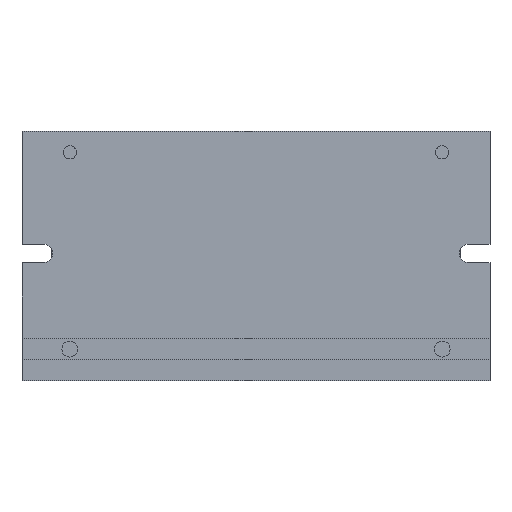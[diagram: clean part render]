
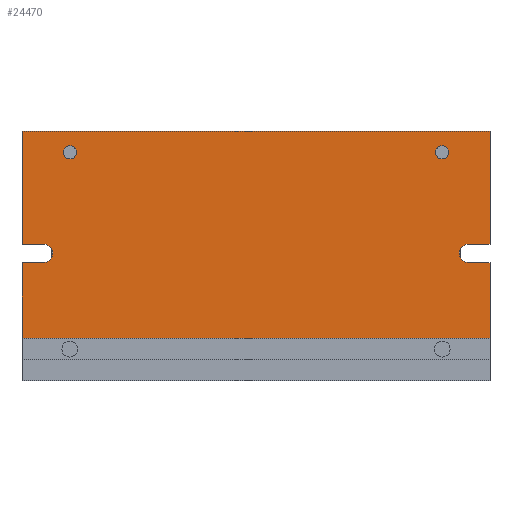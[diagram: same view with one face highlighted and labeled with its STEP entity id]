
A CAD part, front view. The second image highlights one B-rep face of the part: STEP entity #24470.
In plain terms, the highlighted planar face has unit normal (0, -1, 0).
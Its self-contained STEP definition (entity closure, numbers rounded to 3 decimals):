
#1 = EDGE_CURVE ( 'NONE', #2738, #27840, #22811, .T. ) ;
#100 = ORIENTED_EDGE ( 'NONE', *, *, #20374, .T. ) ;
#348 = DIRECTION ( 'NONE',  ( 0., 1., 0. ) ) ;
#787 = DIRECTION ( 'NONE',  ( -1., 0., 0. ) ) ;
#1360 = ORIENTED_EDGE ( 'NONE', *, *, #4652, .T. ) ;
#1421 = CARTESIAN_POINT ( 'NONE',  ( -44., 0., -25.75 ) ) ;
#1454 = EDGE_CURVE ( 'NONE', #12132, #8810, #28858, .T. ) ;
#1791 = LINE ( 'NONE', #15884, #26121 ) ;
#2301 = DIRECTION ( 'NONE',  ( -1., 0., 0. ) ) ;
#2428 = EDGE_CURVE ( 'NONE', #28799, #9588, #11912, .T. ) ;
#2738 = VERTEX_POINT ( 'NONE', #4906 ) ;
#2786 = EDGE_CURVE ( 'NONE', #26150, #6599, #4125, .T. ) ;
#2806 = CARTESIAN_POINT ( 'NONE',  ( -44., 0., -25.75 ) ) ;
#3732 = CARTESIAN_POINT ( 'NONE',  ( 44., 0., -8. ) ) ;
#3760 = VERTEX_POINT ( 'NONE', #16491 ) ;
#3770 = VECTOR ( 'NONE', #6087, 1000. ) ;
#4125 = CIRCLE ( 'NONE', #23619, 1.25 ) ;
#4129 = DIRECTION ( 'NONE',  ( 1., 0., 0. ) ) ;
#4597 = CARTESIAN_POINT ( 'NONE',  ( -35., 0., -44.25 ) ) ;
#4652 = EDGE_CURVE ( 'NONE', #13465, #26001, #11545, .T. ) ;
#4874 = VERTEX_POINT ( 'NONE', #26223 ) ;
#4906 = CARTESIAN_POINT ( 'NONE',  ( 44., 0., -25.75 ) ) ;
#4967 = CARTESIAN_POINT ( 'NONE',  ( -35., 0., -41.75 ) ) ;
#5314 = CARTESIAN_POINT ( 'NONE',  ( 40., 0., -25.75 ) ) ;
#5689 = LINE ( 'NONE', #1421, #11258 ) ;
#5694 = EDGE_CURVE ( 'NONE', #27840, #27581, #25424, .T. ) ;
#5844 = DIRECTION ( 'NONE',  ( 0., 0., -1. ) ) ;
#5881 = DIRECTION ( 'NONE',  ( 1., 0., 0. ) ) ;
#6087 = DIRECTION ( 'NONE',  ( 0., 0., -1. ) ) ;
#6458 = CARTESIAN_POINT ( 'NONE',  ( 44., 0., -8. ) ) ;
#6599 = VERTEX_POINT ( 'NONE', #4597 ) ;
#6605 = VECTOR ( 'NONE', #25812, 1000. ) ;
#7734 = EDGE_LOOP ( 'NONE', ( #18925, #29867 ) ) ;
#8086 = ORIENTED_EDGE ( 'NONE', *, *, #1, .F. ) ;
#8204 = AXIS2_PLACEMENT_3D ( 'NONE', #11026, #27511, #13392 ) ;
#8238 = ORIENTED_EDGE ( 'NONE', *, *, #8459, .T. ) ;
#8401 = AXIS2_PLACEMENT_3D ( 'NONE', #26929, #12780, #29268 ) ;
#8459 = EDGE_CURVE ( 'NONE', #9588, #28799, #14771, .T. ) ;
#8810 = VERTEX_POINT ( 'NONE', #14611 ) ;
#9011 = CARTESIAN_POINT ( 'NONE',  ( -40., 0., -24. ) ) ;
#9305 = ORIENTED_EDGE ( 'NONE', *, *, #22963, .T. ) ;
#9588 = VERTEX_POINT ( 'NONE', #14850 ) ;
#9596 = VECTOR ( 'NONE', #30341, 1000. ) ;
#9889 = FACE_BOUND ( 'NONE', #7734, .T. ) ;
#10041 = LINE ( 'NONE', #10612, #27397 ) ;
#10555 = DIRECTION ( 'NONE',  ( 0., 0., 1. ) ) ;
#10612 = CARTESIAN_POINT ( 'NONE',  ( -44., 0., -22.25 ) ) ;
#10636 = FACE_OUTER_BOUND ( 'NONE', #14624, .T. ) ;
#10878 = AXIS2_PLACEMENT_3D ( 'NONE', #9011, #25518, #11404 ) ;
#11026 = CARTESIAN_POINT ( 'NONE',  ( 35., 0., -43. ) ) ;
#11221 = AXIS2_PLACEMENT_3D ( 'NONE', #29226, #24665, #10555 ) ;
#11258 = VECTOR ( 'NONE', #29666, 1000. ) ;
#11319 = LINE ( 'NONE', #28840, #29363 ) ;
#11404 = DIRECTION ( 'NONE',  ( 0., 0., 1. ) ) ;
#11479 = EDGE_CURVE ( 'NONE', #12132, #4874, #11319, .T. ) ;
#11533 = CARTESIAN_POINT ( 'NONE',  ( -35., 0., -43. ) ) ;
#11545 = CIRCLE ( 'NONE', #10878, 1.75 ) ;
#11912 = CIRCLE ( 'NONE', #8401, 1.25 ) ;
#12132 = VERTEX_POINT ( 'NONE', #25290 ) ;
#12148 = DIRECTION ( 'NONE',  ( 0., 1., 0. ) ) ;
#12780 = DIRECTION ( 'NONE',  ( 0., 1., 0. ) ) ;
#13075 = CIRCLE ( 'NONE', #29503, 1.25 ) ;
#13107 = ORIENTED_EDGE ( 'NONE', *, *, #11479, .T. ) ;
#13392 = DIRECTION ( 'NONE',  ( 0., 0., 1. ) ) ;
#13465 = VERTEX_POINT ( 'NONE', #15978 ) ;
#13824 = VERTEX_POINT ( 'NONE', #5314 ) ;
#13878 = ORIENTED_EDGE ( 'NONE', *, *, #23284, .T. ) ;
#13893 = DIRECTION ( 'NONE',  ( 0., 0., 1. ) ) ;
#14213 = CARTESIAN_POINT ( 'NONE',  ( 35., 0., -41.75 ) ) ;
#14513 = CARTESIAN_POINT ( 'NONE',  ( 40., 0., -24. ) ) ;
#14611 = CARTESIAN_POINT ( 'NONE',  ( 44., 0., -22.25 ) ) ;
#14624 = EDGE_LOOP ( 'NONE', ( #25407, #23015, #16889, #13107, #23197, #13878, #1360, #29640, #100, #21509, #8086, #9305 ) ) ;
#14771 = CIRCLE ( 'NONE', #8204, 1.25 ) ;
#14850 = CARTESIAN_POINT ( 'NONE',  ( 35., 0., -44.25 ) ) ;
#15105 = PLANE ( 'NONE',  #11221 ) ;
#15884 = CARTESIAN_POINT ( 'NONE',  ( 44., 0., -22.25 ) ) ;
#15978 = CARTESIAN_POINT ( 'NONE',  ( -40., 0., -22.25 ) ) ;
#16278 = CARTESIAN_POINT ( 'NONE',  ( -44., 0., -8. ) ) ;
#16491 = CARTESIAN_POINT ( 'NONE',  ( 40., 0., -22.25 ) ) ;
#16536 = EDGE_CURVE ( 'NONE', #26001, #24824, #5689, .T. ) ;
#16541 = VECTOR ( 'NONE', #5844, 1000. ) ;
#16654 = EDGE_CURVE ( 'NONE', #6599, #26150, #13075, .T. ) ;
#16858 = DIRECTION ( 'NONE',  ( 0., 0., -1. ) ) ;
#16889 = ORIENTED_EDGE ( 'NONE', *, *, #1454, .F. ) ;
#17679 = CARTESIAN_POINT ( 'NONE',  ( -40., 0., -25.75 ) ) ;
#18530 = ORIENTED_EDGE ( 'NONE', *, *, #2428, .T. ) ;
#18777 = CARTESIAN_POINT ( 'NONE',  ( 44., 0., -25.75 ) ) ;
#18925 = ORIENTED_EDGE ( 'NONE', *, *, #2786, .T. ) ;
#19331 = CARTESIAN_POINT ( 'NONE',  ( -44., 0., -22.25 ) ) ;
#19512 = VECTOR ( 'NONE', #25669, 1000. ) ;
#19875 = CIRCLE ( 'NONE', #21272, 1.75 ) ;
#20374 = EDGE_CURVE ( 'NONE', #24824, #27581, #22139, .T. ) ;
#20897 = EDGE_CURVE ( 'NONE', #4874, #22661, #25790, .T. ) ;
#21272 = AXIS2_PLACEMENT_3D ( 'NONE', #14513, #348, #16858 ) ;
#21509 = ORIENTED_EDGE ( 'NONE', *, *, #5694, .F. ) ;
#22139 = LINE ( 'NONE', #27961, #9596 ) ;
#22661 = VERTEX_POINT ( 'NONE', #19331 ) ;
#22706 = EDGE_LOOP ( 'NONE', ( #18530, #8238 ) ) ;
#22811 = LINE ( 'NONE', #6458, #16541 ) ;
#22963 = EDGE_CURVE ( 'NONE', #2738, #13824, #29634, .T. ) ;
#23015 = ORIENTED_EDGE ( 'NONE', *, *, #25176, .T. ) ;
#23197 = ORIENTED_EDGE ( 'NONE', *, *, #20897, .T. ) ;
#23284 = EDGE_CURVE ( 'NONE', #22661, #13465, #10041, .T. ) ;
#23419 = CARTESIAN_POINT ( 'NONE',  ( 44., 0., -47. ) ) ;
#23619 = AXIS2_PLACEMENT_3D ( 'NONE', #26270, #12148, #28626 ) ;
#24351 = EDGE_CURVE ( 'NONE', #13824, #3760, #19875, .T. ) ;
#24470 = ADVANCED_FACE ( 'NONE', ( #9889, #27982, #10636 ), #15105, .F. ) ;
#24665 = DIRECTION ( 'NONE',  ( 0., 1., 0. ) ) ;
#24824 = VERTEX_POINT ( 'NONE', #2806 ) ;
#25176 = EDGE_CURVE ( 'NONE', #3760, #8810, #1791, .T. ) ;
#25191 = CARTESIAN_POINT ( 'NONE',  ( 44., 0., -47. ) ) ;
#25290 = CARTESIAN_POINT ( 'NONE',  ( 44., 0., -8. ) ) ;
#25407 = ORIENTED_EDGE ( 'NONE', *, *, #24351, .T. ) ;
#25424 = LINE ( 'NONE', #23419, #6605 ) ;
#25518 = DIRECTION ( 'NONE',  ( 0., 1., 0. ) ) ;
#25669 = DIRECTION ( 'NONE',  ( 0., 0., -1. ) ) ;
#25790 = LINE ( 'NONE', #16278, #19512 ) ;
#25812 = DIRECTION ( 'NONE',  ( -1., 0., 0. ) ) ;
#26001 = VERTEX_POINT ( 'NONE', #17679 ) ;
#26121 = VECTOR ( 'NONE', #4129, 1000. ) ;
#26150 = VERTEX_POINT ( 'NONE', #4967 ) ;
#26223 = CARTESIAN_POINT ( 'NONE',  ( -44., 0., -8. ) ) ;
#26270 = CARTESIAN_POINT ( 'NONE',  ( -35., 0., -43. ) ) ;
#26929 = CARTESIAN_POINT ( 'NONE',  ( 35., 0., -43. ) ) ;
#27397 = VECTOR ( 'NONE', #5881, 1000. ) ;
#27511 = DIRECTION ( 'NONE',  ( 0., 1., 0. ) ) ;
#27581 = VERTEX_POINT ( 'NONE', #29132 ) ;
#27840 = VERTEX_POINT ( 'NONE', #25191 ) ;
#27961 = CARTESIAN_POINT ( 'NONE',  ( -44., 0., -8. ) ) ;
#27982 = FACE_BOUND ( 'NONE', #22706, .T. ) ;
#28006 = DIRECTION ( 'NONE',  ( 0., 1., 0. ) ) ;
#28626 = DIRECTION ( 'NONE',  ( 0., 0., 1. ) ) ;
#28799 = VERTEX_POINT ( 'NONE', #14213 ) ;
#28840 = CARTESIAN_POINT ( 'NONE',  ( 44., 0., -8. ) ) ;
#28858 = LINE ( 'NONE', #3732, #3770 ) ;
#28886 = VECTOR ( 'NONE', #2301, 1000. ) ;
#29132 = CARTESIAN_POINT ( 'NONE',  ( -44., 0., -47. ) ) ;
#29226 = CARTESIAN_POINT ( 'NONE',  ( 44., 0., -8. ) ) ;
#29268 = DIRECTION ( 'NONE',  ( 0., 0., 1. ) ) ;
#29363 = VECTOR ( 'NONE', #787, 1000. ) ;
#29503 = AXIS2_PLACEMENT_3D ( 'NONE', #11533, #28006, #13893 ) ;
#29634 = LINE ( 'NONE', #18777, #28886 ) ;
#29640 = ORIENTED_EDGE ( 'NONE', *, *, #16536, .T. ) ;
#29666 = DIRECTION ( 'NONE',  ( -1., 0., 0. ) ) ;
#29867 = ORIENTED_EDGE ( 'NONE', *, *, #16654, .T. ) ;
#30341 = DIRECTION ( 'NONE',  ( 0., 0., -1. ) ) ;
